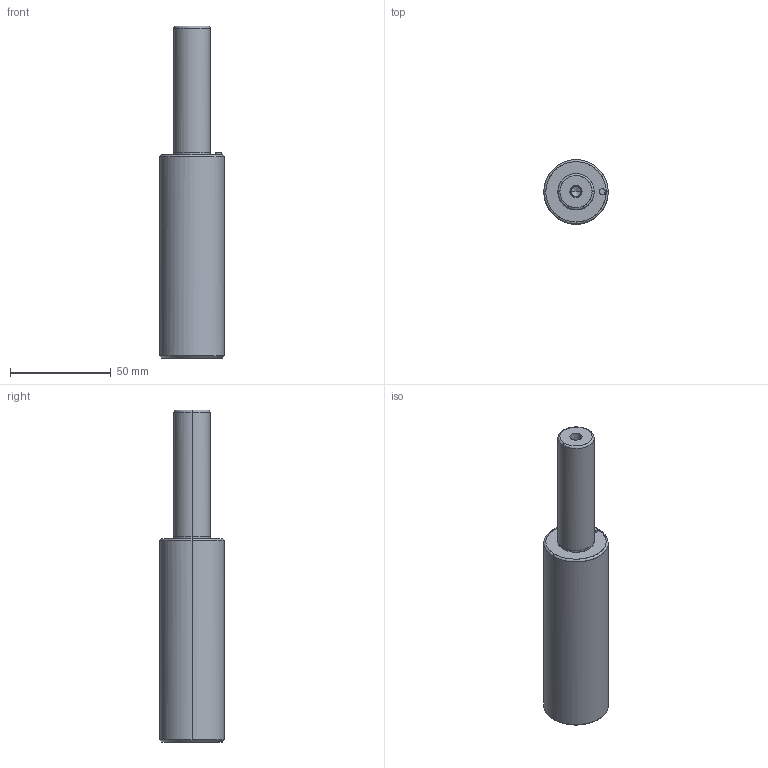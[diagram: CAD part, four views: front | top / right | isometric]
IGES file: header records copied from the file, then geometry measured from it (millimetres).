
Global section: file name: E:\UnigraphicsGraphicData\MISUMI_PRESS-PARTS\IGES\3d_gsc32-63_03827_r00.igs; native system: NX V5.0; preprocessor: UGS NX IGES V5.0; author: MISUMI; date: 20110105.160746; units: millimetre
Bounding box: 32 x 31.93 x 165 mm (x, y, z)
Surface area: 15664 mm2 (no closed solid volume)
Topology: 0 solids, 0 shells, 32 faces, 216 edges, 212 vertices
Faces by surface type: bspline 32
